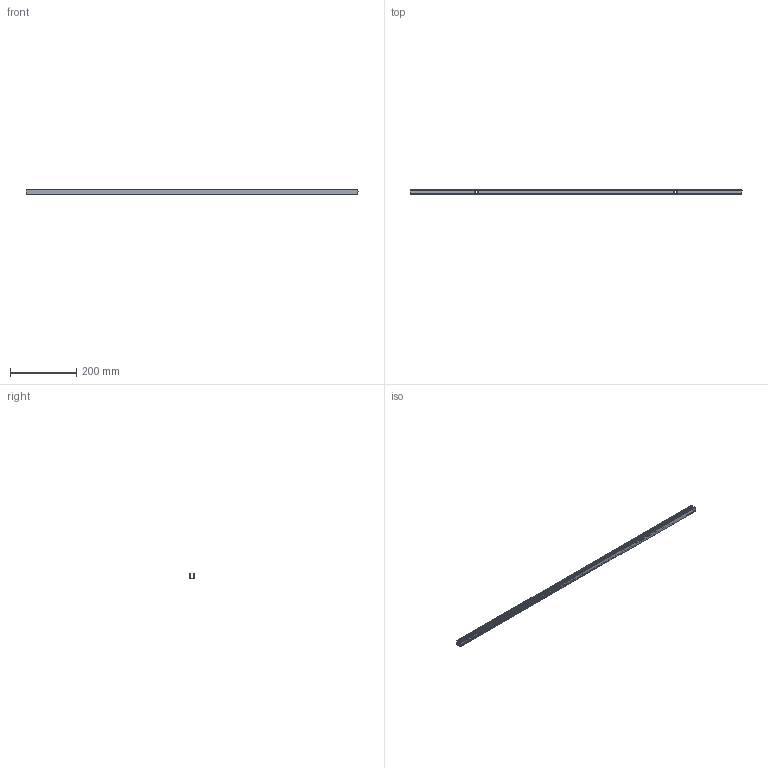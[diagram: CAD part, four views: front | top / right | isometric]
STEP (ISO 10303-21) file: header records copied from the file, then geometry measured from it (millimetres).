
FILE_DESCRIPTION(/* description */ (''),/* implementation_level */ '2;1');
FILE_NAME(/* name */ 'NF_1010_STRAIGHT_PROFILE_L1000_R04.step',/* time_stamp */ '2026-07-14T21:04:19+02:00',/* author */ (''),/* organization */ (''),/* preprocessor_version */ 'ST-DEVELOPER v20.1',/* originating_system */ 'Autodesk Translation Framework v15.8.0.0',/* authorisation */ '');
FILE_SCHEMA (('AUTOMOTIVE_DESIGN { 1 0 10303 214 3 1 1 }'));
Length unit declared in the file: millimetre
Products named in the file (1): 2026-07-14-11-20-51-099
Bounding box: 1000 x 15.86 x 14.9 mm (x, y, z)
Volume: 82490.6 mm3; surface area: 166940.2 mm2
Topology: 3 solids, 3 shells, 146 faces, 420 edges, 280 vertices
Faces by surface type: plane 66, bspline 57, cylinder 23
Entity records: 5816 total; most frequent: CARTESIAN_POINT 2424, ORIENTED_EDGE 840, DIRECTION 552, EDGE_CURVE 420, VERTEX_POINT 280, LINE 260, VECTOR 260, EDGE_LOOP 150
